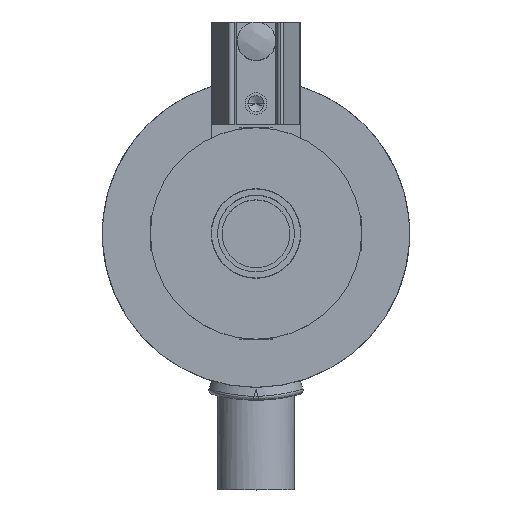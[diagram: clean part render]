
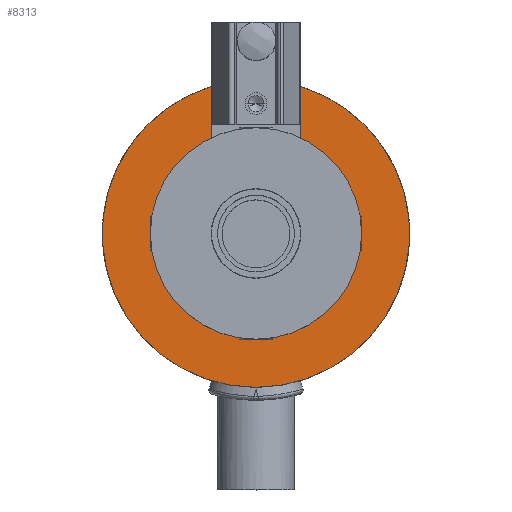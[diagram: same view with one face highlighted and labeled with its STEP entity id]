
A CAD part, top view. The second image highlights one B-rep face of the part: STEP entity #8313.
In plain terms, the highlighted planar face has unit normal (0, 0, 1).
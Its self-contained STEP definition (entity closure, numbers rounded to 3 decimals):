
#2189 = CARTESIAN_POINT ( 'NONE',  ( 3.5, 20.123, 5. ) ) ;
#2191 = CARTESIAN_POINT ( 'NONE',  ( -3.5, 24.407, 5. ) ) ;
#2236 = CARTESIAN_POINT ( 'NONE',  ( 3.5, 24.407, 5. ) ) ;
#2238 = CARTESIAN_POINT ( 'NONE',  ( 0., 4.929, 5. ) ) ;
#2242 = CARTESIAN_POINT ( 'NONE',  ( 0., 0.929, 5. ) ) ;
#2250 = CARTESIAN_POINT ( 'NONE',  ( -3.5, 20.123, 5. ) ) ;
#3668 = DIRECTION ( 'NONE',  ( 0., 1., 0. ) ) ;
#3669 = DIRECTION ( 'NONE',  ( 0., 0., -1. ) ) ;
#3670 = CARTESIAN_POINT ( 'NONE',  ( 0., 12.929, 5. ) ) ;
#3748 = CARTESIAN_POINT ( 'NONE',  ( 0., 12.929, 5. ) ) ;
#3749 = DIRECTION ( 'NONE',  ( 0., 0., -1. ) ) ;
#3750 = DIRECTION ( 'NONE',  ( 0., -1., 0. ) ) ;
#4038 = DIRECTION ( 'NONE',  ( 1., 0., 0. ) ) ;
#4039 = DIRECTION ( 'NONE',  ( 0., 0., 1. ) ) ;
#4041 = PLANE ( 'NONE',  #10889 ) ;
#4045 = CARTESIAN_POINT ( 'NONE',  ( 0., 12.929, 5. ) ) ;
#5672 = EDGE_LOOP ( 'NONE', ( #9638, #9639, #9640, #9641, #9642, #9643 ) ) ;
#6762 = DIRECTION ( 'NONE',  ( 0., -1., 0. ) ) ;
#6763 = DIRECTION ( 'NONE',  ( 0., 0., -1. ) ) ;
#6764 = CARTESIAN_POINT ( 'NONE',  ( 0., 12.929, 5. ) ) ;
#6776 = DIRECTION ( 'NONE',  ( 0., 1., 0. ) ) ;
#6777 = DIRECTION ( 'NONE',  ( 0., 0., -1. ) ) ;
#6778 = CARTESIAN_POINT ( 'NONE',  ( 0., 12.929, 5. ) ) ;
#6781 = DIRECTION ( 'NONE',  ( 0., -1., 0. ) ) ;
#6784 = DIRECTION ( 'NONE',  ( 0., 1., 0. ) ) ;
#6785 = CARTESIAN_POINT ( 'NONE',  ( -3.5, 12.929, 5. ) ) ;
#6791 = CARTESIAN_POINT ( 'NONE',  ( 3.5, 12.929, 5. ) ) ;
#7836 = EDGE_CURVE ( 'NONE', #9805, #9817, #10164, .T. ) ;
#7843 = EDGE_CURVE ( 'NONE', #9803, #9809, #10178, .T. ) ;
#8069 = EDGE_CURVE ( 'NONE', #9817, #9758, #10531, .T. ) ;
#8071 = EDGE_CURVE ( 'NONE', #9803, #9756, #10522, .T. ) ;
#8073 = EDGE_CURVE ( 'NONE', #9756, #9805, #10539, .T. ) ;
#8077 = EDGE_CURVE ( 'NONE', #9809, #9758, #10544, .T. ) ;
#8313 = ADVANCED_FACE ( 'NONE', ( #11134 ), #4041, .T. ) ;
#8886 = AXIS2_PLACEMENT_3D ( 'NONE', #3670, #3669, #3668 ) ;
#8890 = AXIS2_PLACEMENT_3D ( 'NONE', #3748, #3749, #3750 ) ;
#9009 = AXIS2_PLACEMENT_3D ( 'NONE', #6778, #6777, #6776 ) ;
#9013 = AXIS2_PLACEMENT_3D ( 'NONE', #6764, #6763, #6762 ) ;
#9638 = ORIENTED_EDGE ( 'NONE', *, *, #8071, .T. ) ;
#9639 = ORIENTED_EDGE ( 'NONE', *, *, #8073, .T. ) ;
#9640 = ORIENTED_EDGE ( 'NONE', *, *, #7836, .T. ) ;
#9641 = ORIENTED_EDGE ( 'NONE', *, *, #8069, .T. ) ;
#9642 = ORIENTED_EDGE ( 'NONE', *, *, #8077, .F. ) ;
#9643 = ORIENTED_EDGE ( 'NONE', *, *, #7843, .F. ) ;
#9756 = VERTEX_POINT ( 'NONE', #2189 ) ;
#9758 = VERTEX_POINT ( 'NONE', #2191 ) ;
#9803 = VERTEX_POINT ( 'NONE', #2236 ) ;
#9805 = VERTEX_POINT ( 'NONE', #2238 ) ;
#9809 = VERTEX_POINT ( 'NONE', #2242 ) ;
#9817 = VERTEX_POINT ( 'NONE', #2250 ) ;
#10164 = CIRCLE ( 'NONE', #8886, 8. ) ;
#10178 = CIRCLE ( 'NONE', #8890, 12. ) ;
#10522 = LINE ( 'NONE', #6791, #10538 ) ;
#10531 = LINE ( 'NONE', #6785, #10534 ) ;
#10534 = VECTOR ( 'NONE', #6784, 1000. ) ;
#10538 = VECTOR ( 'NONE', #6781, 1000. ) ;
#10539 = CIRCLE ( 'NONE', #9009, 8. ) ;
#10544 = CIRCLE ( 'NONE', #9013, 12. ) ;
#10889 = AXIS2_PLACEMENT_3D ( 'NONE', #4045, #4039, #4038 ) ;
#11134 = FACE_OUTER_BOUND ( 'NONE', #5672, .T. ) ;
